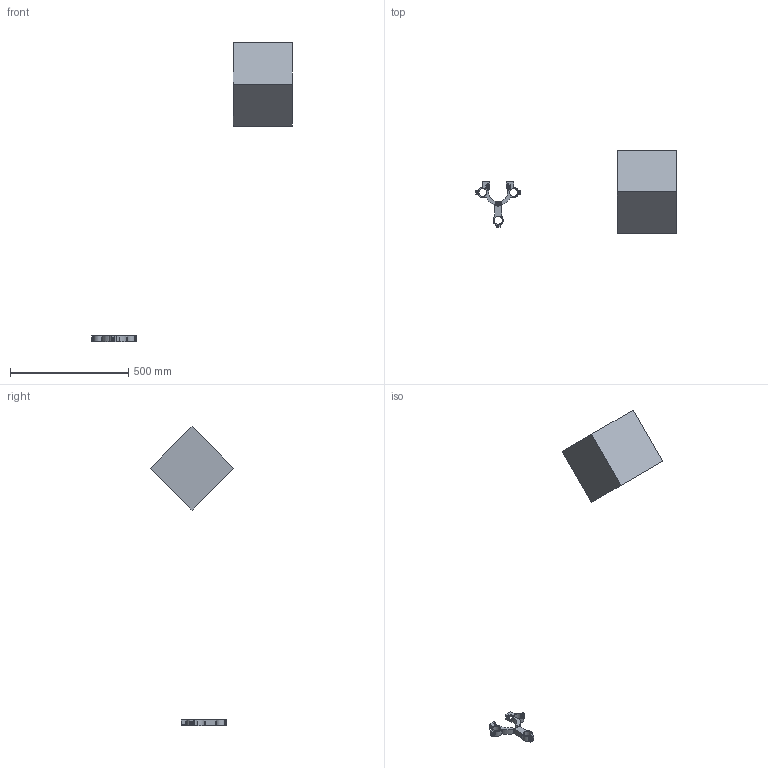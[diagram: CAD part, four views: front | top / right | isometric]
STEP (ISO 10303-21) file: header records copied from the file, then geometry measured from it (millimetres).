
FILE_DESCRIPTION(/* description */ ('VariCAD 2010-3.03 AP-214'),/* implementation_level */ '2;1');
FILE_NAME(/* name */ '0353-22-18',/* time_stamp */ '2011-06-28T23:55:11-06:00',/* author */ (''),/* organization */ (''),/* preprocessor_version */ 'ST-DEVELOPER v12',/* originating_system */ 'VariCAD 2010-3.03; kernel version (20100102)',/* authorisation */ '');
FILE_SCHEMA (('AUTOMOTIVE_DESIGN'));
Length unit declared in the file: millimetre
Products named in the file (1): Part
Bounding box: 848 x 353.55 x 1265.19 mm (x, y, z)
Volume: 15768552.3 mm3; surface area: 423290.6 mm2
Topology: 8 solids, 8 shells, 186 faces, 528 edges, 344 vertices
Faces by surface type: cylinder 119, plane 55, cone 12
Entity records: 8096 total; most frequent: CARTESIAN_POINT 1764, DIRECTION 1060, ORIENTED_EDGE 1056, EDGE_CURVE 528, AXIS2_PLACEMENT_3D 410, VERTEX_POINT 344, LINE 240, VECTOR 240
